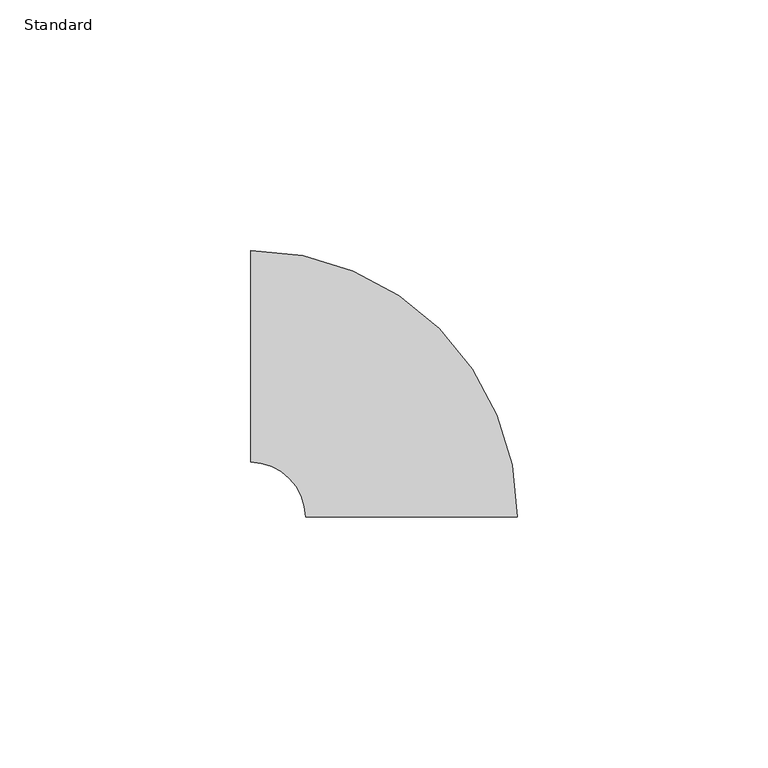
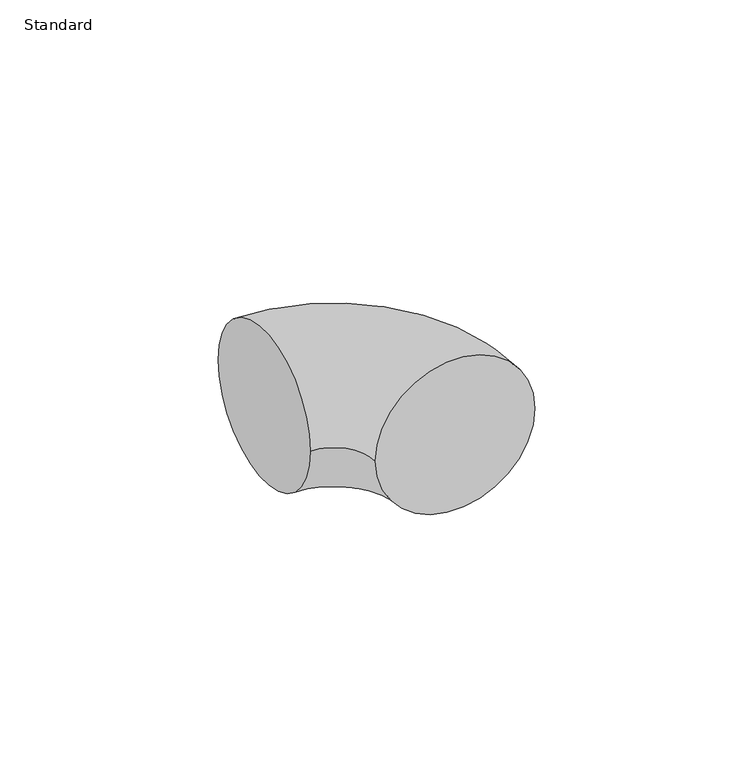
"""IFC4 building model written with IfcOpenShell, lengths in millimetres: pipe fitting geometry, Coude - Générique1 : Standard."""

from ifc_helpers import new_model, si_unit, point, frame, origin, place, context, project, spatial, circle_curve, ellipse_curve, trimmed, source, transform, mapped, element, save
from ifc_brep_helpers import plane_surface, revolved_surface, advanced_brep


def standard_fe6912a5(model_context):
    return source(origin(), model_context, "Body", "AdvancedBrep", [
        advanced_brep(
        [(-32.0, 21.1, 0.0), (-32.0, -21.1, 0.0), (21.1071951, -31.9952546, 0.0), (-21.0928038, -32.0047438, 0.0)],
        [
            (0, 1, circle_curve(frame((-32.0, 0.0, 0.0), z_axis=(-1.0, 0.0, 0.0), x_axis=(0.0, -1.0, 0.0)), 21.1)),
            (1, 0, circle_curve(frame((-32.0, 0.0, 0.0), z_axis=(-1.0, 0.0, 0.0), x_axis=(0.0, -1.0, 0.0)), 21.1)),
            (2, 3, circle_curve(frame((0.0071956, -31.9999992, 0.0), z_axis=(0.0002248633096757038, -0.9999999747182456, 0.0), x_axis=(-0.9999999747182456, -0.0002248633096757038, 0.0)), 21.1)),
            (3, 2, circle_curve(frame((0.0071956, -31.9999992, 0.0), z_axis=(0.0002248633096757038, -0.9999999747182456, 0.0), x_axis=(-0.9999999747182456, -0.0002248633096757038, 0.0)), 21.1)),
            (2, 0, circle_curve(frame((-32.0, -32.0071964, 0.0), z_axis=(0.0, 0.0, 1.0), x_axis=(0.0, 1.0, 0.0)), 53.1071964)),
            (1, 3, circle_curve(frame((-32.0, -32.0071964, 0.0), z_axis=(0.0, 0.0, -1.0), x_axis=(0.0, 1.0, 0.0)), 10.9071964)),
        ],
        [
            plane_surface(frame((-32.0, 0.0, 0.0), z_axis=(-1.0, 0.0, 0.0), x_axis=(0.0, 0.0, 1.0))),
            plane_surface(frame((0.0071956, -31.9999992, 0.0), z_axis=(0.00022486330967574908, -0.9999999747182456, 0.0), x_axis=(0.0, 0.0, 1.0))),
            revolved_surface(trimmed(ellipse_curve(frame((-32.0, 0.0, 0.0), z_axis=(1.0, 0.0, 0.0), x_axis=(0.0, -1.0, 0.0)), 21.1, 21.1), [point((-32.0, 21.1, 0.0))], [point((-32.0, -21.1, 0.0))], True, "CARTESIAN"), (-32.0, -32.0071964, 0.0), (0.0, 0.0, 1.0)),
            revolved_surface(trimmed(ellipse_curve(frame((-32.0, 0.0, 0.0), z_axis=(1.0, 0.0, 0.0), x_axis=(0.0, -1.0, 0.0)), 21.1, 21.1), [point((-32.0, -21.1, 0.0))], [point((-32.0, 21.1, 0.0))], True, "CARTESIAN"), (-32.0, -32.0071964, 0.0), (0.0, 0.0, 1.0)),
        ],
        [
            (0, [[1, 2]]),
            (1, [[3, 4]]),
            (2, [[-3, 5, -2, 6]]),
            (3, [[-4, -6, -1, -5]]),
        ],
    ),
    ])


if __name__ == "__main__":
    model = new_model("IFC4")
    model_context = context("Model", 3, world=origin())
    ifc_project = project(units=[si_unit("LENGTHUNIT", "METRE", prefix="MILLI")], contexts=[model_context])
    site = spatial("IfcSite", under=ifc_project)
    building = spatial("IfcBuilding", under=site)
    placement = place(None, origin())
    standard_shape = standard_fe6912a5(model_context)
    element("IfcPipeFitting", 1, ObjectType="Coude - Générique1 : Standard", at=placement, inside=building, context=model_context, shape_type="MappedRepresentation", body=[
        mapped(standard_shape, transform((0.0, 0.0, 0.0), x_axis=(1.0, 0.0, 0.0), y_axis=(0.0, 1.0, 0.0), z_axis=(0.0, 0.0, 1.0))),
    ])
    save(model, "model.ifc")
